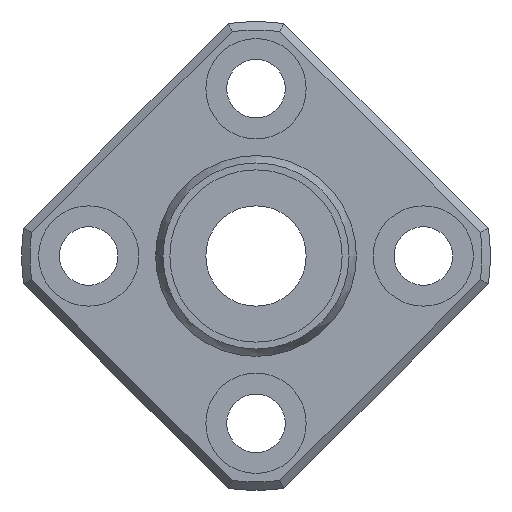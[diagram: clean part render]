
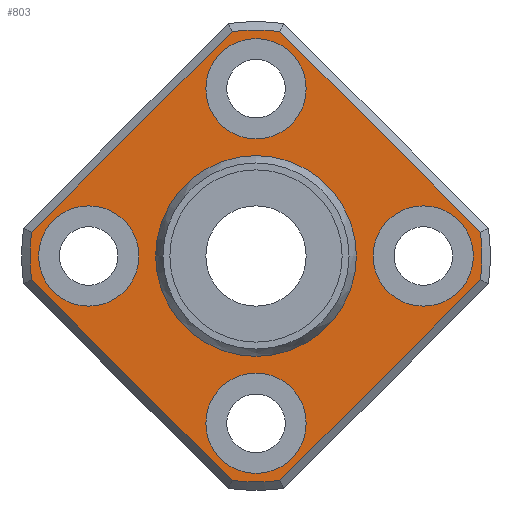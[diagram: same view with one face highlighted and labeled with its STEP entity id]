
A CAD part, left-side view. The second image highlights one B-rep face of the part: STEP entity #803.
In plain terms, the highlighted planar face has unit normal (-1, 0, 0).
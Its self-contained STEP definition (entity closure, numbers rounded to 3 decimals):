
#498=CARTESIAN_POINT('',(15.,-1.425,-13.425));
#499=VERTEX_POINT('',#498);
#507=CARTESIAN_POINT('',(15.,1.425,-13.425));
#508=VERTEX_POINT('',#507);
#509=CARTESIAN_POINT('',(15.,0.0,0.0));
#510=DIRECTION('',(1.0,0.0,0.0));
#511=DIRECTION('',(0.0,0.0,-1.0));
#512=AXIS2_PLACEMENT_3D('',#509,#510,#511);
#513=CIRCLE('',#512,13.5);
#514=EDGE_CURVE('',#499,#508,#513,.T.);
#540=CARTESIAN_POINT('',(15.,13.425,-1.425));
#541=VERTEX_POINT('',#540);
#542=CARTESIAN_POINT('',(15.,1.425,-13.425));
#543=DIRECTION('',(0.0,0.707,0.707));
#544=VECTOR('',#543,16.971);
#545=LINE('',#542,#544);
#546=EDGE_CURVE('',#508,#541,#545,.T.);
#573=CARTESIAN_POINT('',(15.,13.425,1.425));
#574=VERTEX_POINT('',#573);
#575=CARTESIAN_POINT('',(15.,0.0,0.0));
#576=DIRECTION('',(1.0,0.0,0.0));
#577=DIRECTION('',(0.0,0.0,1.0));
#578=AXIS2_PLACEMENT_3D('',#575,#576,#577);
#579=CIRCLE('',#578,13.5);
#580=EDGE_CURVE('',#541,#574,#579,.T.);
#604=CARTESIAN_POINT('',(15.,1.425,13.425));
#605=VERTEX_POINT('',#604);
#606=CARTESIAN_POINT('',(15.,13.425,1.425));
#607=DIRECTION('',(0.0,-0.707,0.707));
#608=VECTOR('',#607,16.971);
#609=LINE('',#606,#608);
#610=EDGE_CURVE('',#574,#605,#609,.T.);
#629=CARTESIAN_POINT('',(15.,-1.425,13.425));
#630=VERTEX_POINT('',#629);
#631=CARTESIAN_POINT('',(15.,0.0,0.0));
#632=DIRECTION('',(1.0,0.0,0.0));
#633=DIRECTION('',(0.0,0.0,1.0));
#634=AXIS2_PLACEMENT_3D('',#631,#632,#633);
#635=CIRCLE('',#634,13.5);
#636=EDGE_CURVE('',#605,#630,#635,.T.);
#655=CARTESIAN_POINT('',(15.,-13.425,1.425));
#656=VERTEX_POINT('',#655);
#657=CARTESIAN_POINT('',(15.,-1.425,13.425));
#658=DIRECTION('',(0.0,-0.707,-0.707));
#659=VECTOR('',#658,16.971);
#660=LINE('',#657,#659);
#661=EDGE_CURVE('',#630,#656,#660,.T.);
#680=CARTESIAN_POINT('',(15.,-13.425,-1.425));
#681=VERTEX_POINT('',#680);
#682=CARTESIAN_POINT('',(15.,0.0,0.0));
#683=DIRECTION('',(1.0,0.0,0.0));
#684=DIRECTION('',(0.0,0.0,1.0));
#685=AXIS2_PLACEMENT_3D('',#682,#683,#684);
#686=CIRCLE('',#685,13.5);
#687=EDGE_CURVE('',#656,#681,#686,.T.);
#706=CARTESIAN_POINT('',(15.,-13.425,-1.425));
#707=DIRECTION('',(0.0,0.707,-0.707));
#708=VECTOR('',#707,16.971);
#709=LINE('',#706,#708);
#710=EDGE_CURVE('',#681,#499,#709,.T.);
#733=CARTESIAN_POINT('',(15.,0.0,9.905));
#734=DIRECTION('',(-1.0,0.0,0.0));
#735=DIRECTION('',(0.0,0.0,1.0));
#736=AXIS2_PLACEMENT_3D('',#733,#734,#735);
#737=PLANE('',#736);
#738=ORIENTED_EDGE('',*,*,#514,.F.);
#739=ORIENTED_EDGE('',*,*,#710,.F.);
#740=ORIENTED_EDGE('',*,*,#687,.F.);
#741=ORIENTED_EDGE('',*,*,#661,.F.);
#742=ORIENTED_EDGE('',*,*,#636,.F.);
#743=ORIENTED_EDGE('',*,*,#610,.F.);
#744=ORIENTED_EDGE('',*,*,#580,.F.);
#745=ORIENTED_EDGE('',*,*,#546,.F.);
#746=EDGE_LOOP('',(#738,#739,#740,#741,#742,#743,#744,#745));
#747=FACE_OUTER_BOUND('',#746,.T.);
#748=CARTESIAN_POINT('',(15.,0.0,5.809));
#749=VERTEX_POINT('',#748);
#750=CARTESIAN_POINT('',(15.,0.0,0.0));
#751=DIRECTION('',(-1.0,0.0,0.0));
#752=DIRECTION('',(0.0,0.0,1.0));
#753=AXIS2_PLACEMENT_3D('',#750,#751,#752);
#754=CIRCLE('',#753,5.809);
#755=EDGE_CURVE('',#749,#749,#754,.T.);
#756=ORIENTED_EDGE('',*,*,#755,.F.);
#757=EDGE_LOOP('',(#756));
#758=FACE_BOUND('',#757,.T.);
#759=CARTESIAN_POINT('',(15.0,-7.,0.0));
#760=VERTEX_POINT('',#759);
#761=CARTESIAN_POINT('',(15.,-10.0,0.0));
#762=DIRECTION('',(1.0,0.0,0.0));
#763=DIRECTION('',(0.0,1.0,0.0));
#764=AXIS2_PLACEMENT_3D('',#761,#762,#763);
#765=CIRCLE('',#764,3.);
#766=EDGE_CURVE('',#760,#760,#765,.T.);
#767=ORIENTED_EDGE('',*,*,#766,.T.);
#768=EDGE_LOOP('',(#767));
#769=FACE_BOUND('',#768,.T.);
#770=CARTESIAN_POINT('',(15.0,13.0,0.0));
#771=VERTEX_POINT('',#770);
#772=CARTESIAN_POINT('',(15.,10.0,0.0));
#773=DIRECTION('',(1.0,0.0,0.0));
#774=DIRECTION('',(0.0,1.0,0.0));
#775=AXIS2_PLACEMENT_3D('',#772,#773,#774);
#776=CIRCLE('',#775,3.);
#777=EDGE_CURVE('',#771,#771,#776,.T.);
#778=ORIENTED_EDGE('',*,*,#777,.T.);
#779=EDGE_LOOP('',(#778));
#780=FACE_BOUND('',#779,.T.);
#781=CARTESIAN_POINT('',(15.0,3.,10.0));
#782=VERTEX_POINT('',#781);
#783=CARTESIAN_POINT('',(15.,0.0,10.0));
#784=DIRECTION('',(1.0,0.0,0.0));
#785=DIRECTION('',(0.0,1.0,0.0));
#786=AXIS2_PLACEMENT_3D('',#783,#784,#785);
#787=CIRCLE('',#786,3.);
#788=EDGE_CURVE('',#782,#782,#787,.T.);
#789=ORIENTED_EDGE('',*,*,#788,.T.);
#790=EDGE_LOOP('',(#789));
#791=FACE_BOUND('',#790,.T.);
#792=CARTESIAN_POINT('',(15.0,3.,-10.0));
#793=VERTEX_POINT('',#792);
#794=CARTESIAN_POINT('',(15.,0.0,-10.0));
#795=DIRECTION('',(1.0,0.0,0.0));
#796=DIRECTION('',(0.0,1.0,0.0));
#797=AXIS2_PLACEMENT_3D('',#794,#795,#796);
#798=CIRCLE('',#797,3.);
#799=EDGE_CURVE('',#793,#793,#798,.T.);
#800=ORIENTED_EDGE('',*,*,#799,.T.);
#801=EDGE_LOOP('',(#800));
#802=FACE_BOUND('',#801,.T.);
#803=ADVANCED_FACE('',(#747,#758,#769,#780,#791,#802),#737,.T.);
